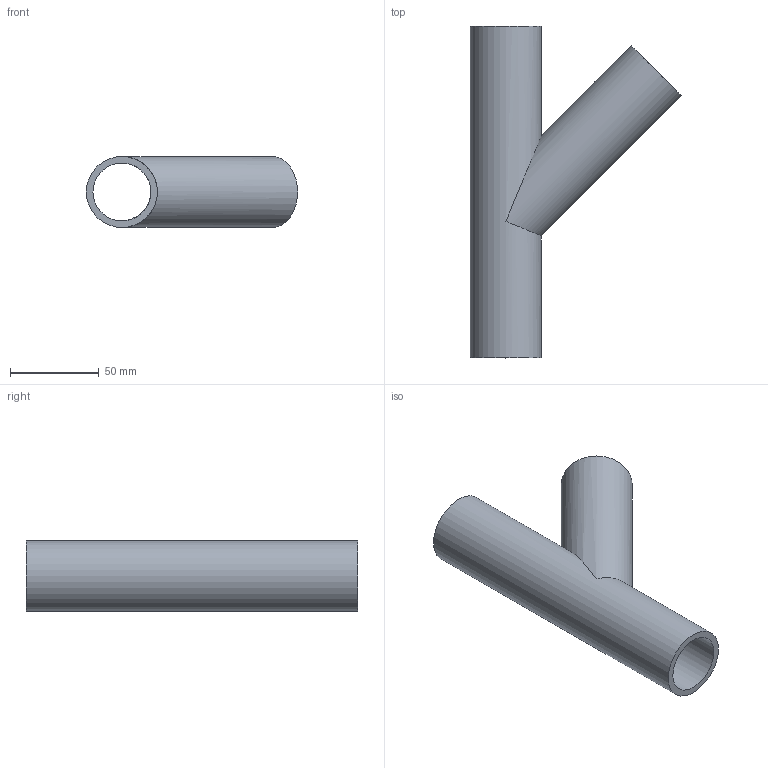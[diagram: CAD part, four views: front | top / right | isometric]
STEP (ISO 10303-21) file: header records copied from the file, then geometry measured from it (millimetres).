
FILE_DESCRIPTION(('Beschreibung'),'1');
FILE_NAME('V:/Ziel/25.25.01.103_SDR_11_PE100_040.STP', '2014-09-15T06:18:59',('Author'), ('Organization'), 'KCM Version 1.1.794.0', 'Kubotek KeyCreator', 'Authorization');
FILE_SCHEMA(('CONFIG_CONTROL_DESIGN'));
Length unit declared in the file: millimetre
Bounding box: 119 x 187 x 40 mm (x, y, z)
Volume: 115699 mm3; surface area: 63756 mm2
Topology: 1 solids, 1 shells, 7 faces, 28 edges, 24 vertices
Faces by surface type: cylinder 4, plane 3
Full cylindrical faces by diameter (mm): 32.6 x2, 40 x2
Entity records: 695 total; most frequent: CARTESIAN_POINT 378, DIRECTION 48, ORIENTED_EDGE 48, EDGE_CURVE 24, AXIS2_PLACEMENT_3D 22, VERTEX_POINT 20, EDGE_LOOP 12, CIRCLE 10
